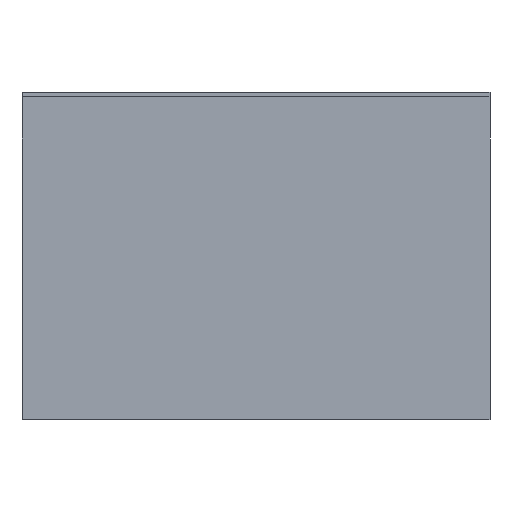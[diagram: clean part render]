
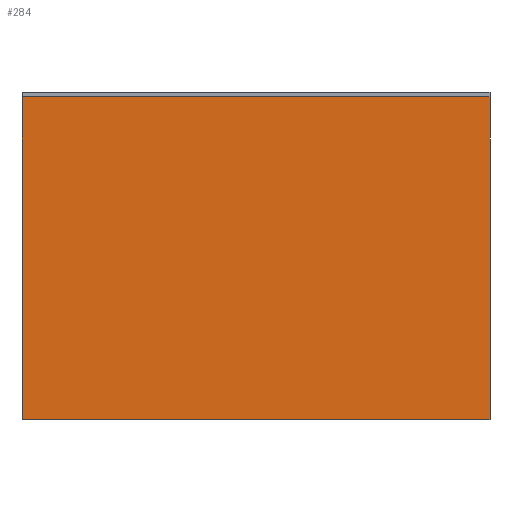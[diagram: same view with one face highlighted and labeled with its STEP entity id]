
A CAD part, front view. The second image highlights one B-rep face of the part: STEP entity #284.
In plain terms, the highlighted planar face has unit normal (0, -1, 0).
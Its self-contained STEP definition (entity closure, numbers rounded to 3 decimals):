
#38=FACE_OUTER_BOUND('',#52,.T.);
#52=EDGE_LOOP('',(#253,#254,#255,#256));
#58=LINE('',#387,#94);
#85=LINE('',#441,#121);
#87=LINE('',#444,#123);
#88=LINE('',#446,#124);
#94=VECTOR('',#318,10.);
#121=VECTOR('',#363,10.);
#123=VECTOR('',#367,10.);
#124=VECTOR('',#370,10.);
#129=VERTEX_POINT('',#384);
#130=VERTEX_POINT('',#386);
#147=VERTEX_POINT('',#438);
#148=VERTEX_POINT('',#440);
#154=EDGE_CURVE('',#130,#129,#58,.T.);
#181=EDGE_CURVE('',#148,#147,#85,.T.);
#183=EDGE_CURVE('',#147,#130,#87,.T.);
#184=EDGE_CURVE('',#148,#129,#88,.T.);
#253=ORIENTED_EDGE('',*,*,#154,.T.);
#254=ORIENTED_EDGE('',*,*,#184,.F.);
#255=ORIENTED_EDGE('',*,*,#181,.T.);
#256=ORIENTED_EDGE('',*,*,#183,.T.);
#270=PLANE('',#306);
#284=ADVANCED_FACE('',(#38),#270,.T.);
#306=AXIS2_PLACEMENT_3D('',#447,#371,#372);
#318=DIRECTION('',(-1.,0.,0.));
#363=DIRECTION('',(1.,0.,0.));
#367=DIRECTION('',(0.,0.,1.));
#370=DIRECTION('',(0.,0.,1.));
#371=DIRECTION('center_axis',(0.,-1.,0.));
#372=DIRECTION('ref_axis',(1.,0.,0.));
#384=CARTESIAN_POINT('',(0.,0.,0.345));
#386=CARTESIAN_POINT('',(0.5,0.,0.345));
#387=CARTESIAN_POINT('',(0.25,0.,0.345));
#438=CARTESIAN_POINT('',(0.5,0.,0.));
#440=CARTESIAN_POINT('',(0.,0.,0.));
#441=CARTESIAN_POINT('',(0.,0.,0.));
#444=CARTESIAN_POINT('',(0.5,0.,0.));
#446=CARTESIAN_POINT('',(0.,0.,0.));
#447=CARTESIAN_POINT('Origin',(0.,0.,0.));
